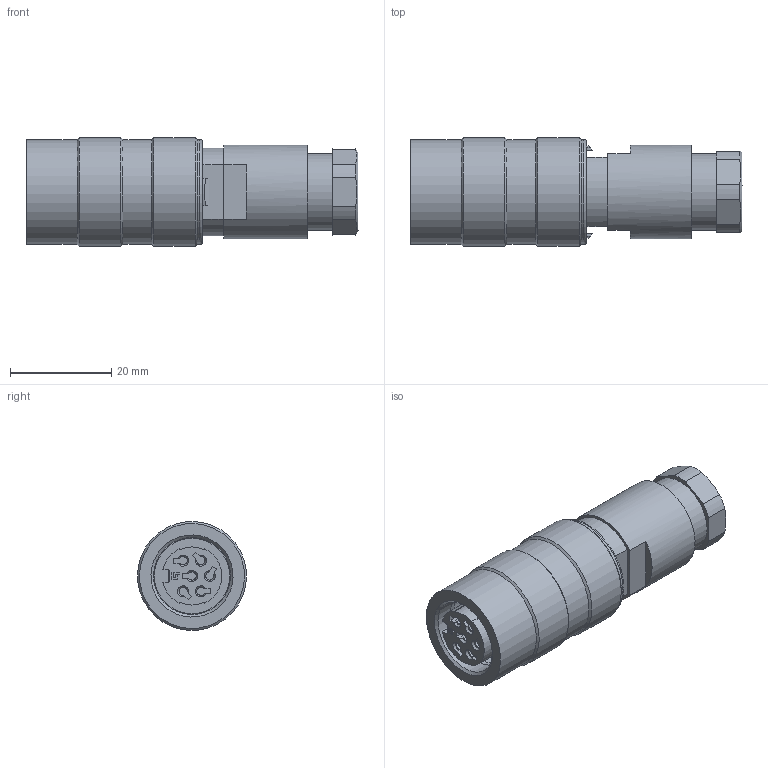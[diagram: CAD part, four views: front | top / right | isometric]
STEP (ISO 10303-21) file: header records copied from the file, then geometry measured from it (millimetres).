
FILE_DESCRIPTION(/* description */ (''),/* implementation_level */ '2;1');
FILE_NAME(/* name */ '09-0122-70-06-001_00.stp',/* time_stamp */ '2017-04-07T11:54:46+02:00',/* author */ (''),/* organization */ (''),/* preprocessor_version */ 'ST-DEVELOPER v14',/* originating_system */ 'SIEMENS PLM Software NX 8.0',/* authorisation */ '');
FILE_SCHEMA (('AUTOMOTIVE_DESIGN { 1 0 10303 214 3 1 1 1 }'));
Length unit declared in the file: millimetre
Products named in the file (1): jbyc0CC05C6D0xoj
Bounding box: 65.5 x 21.48 x 21.48 mm (x, y, z)
Volume: 18217.3 mm3; surface area: 5963.3 mm2
Topology: 1 solids, 1 shells, 144 faces, 361 edges, 238 vertices
Faces by surface type: plane 90, cylinder 37, cone 13, torus 2, revolution 2
Full cylindrical faces by diameter (mm): 9.5 x1, 14.9 x1, 15.188 x1, 15.2 x1, 16 x1, 17.45 x1, 18.5 x1, 20.7 x3, 21.5 x2
Entity records: 4264 total; most frequent: CARTESIAN_POINT 857, DIRECTION 692, ORIENTED_EDGE 668, EDGE_CURVE 334, AXIS2_PLACEMENT_3D 239, VERTEX_POINT 232, LINE 212, VECTOR 212
